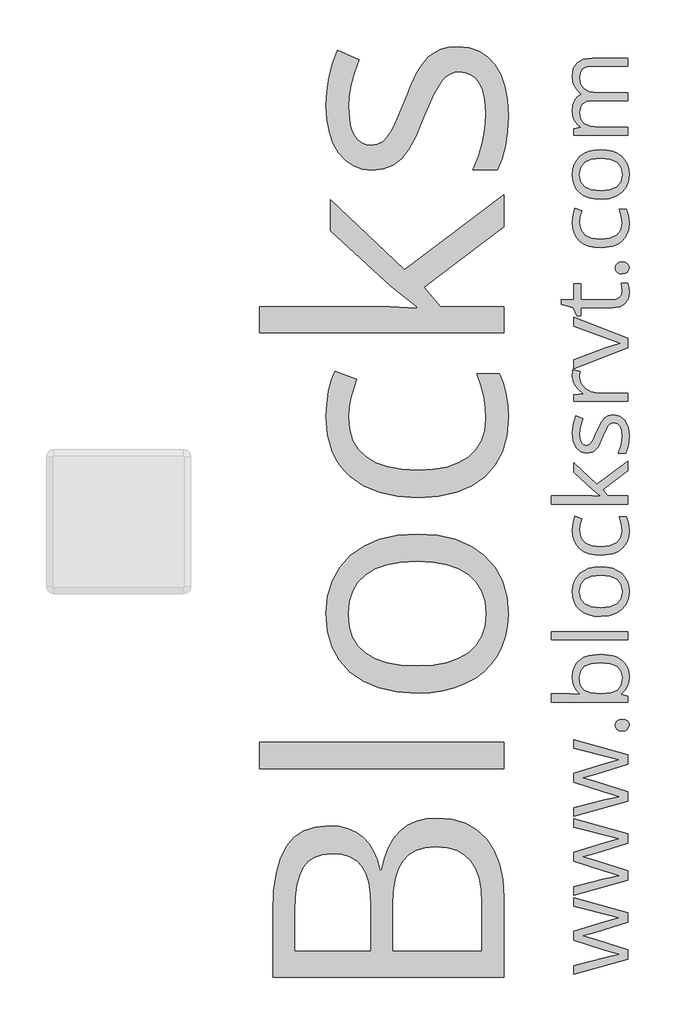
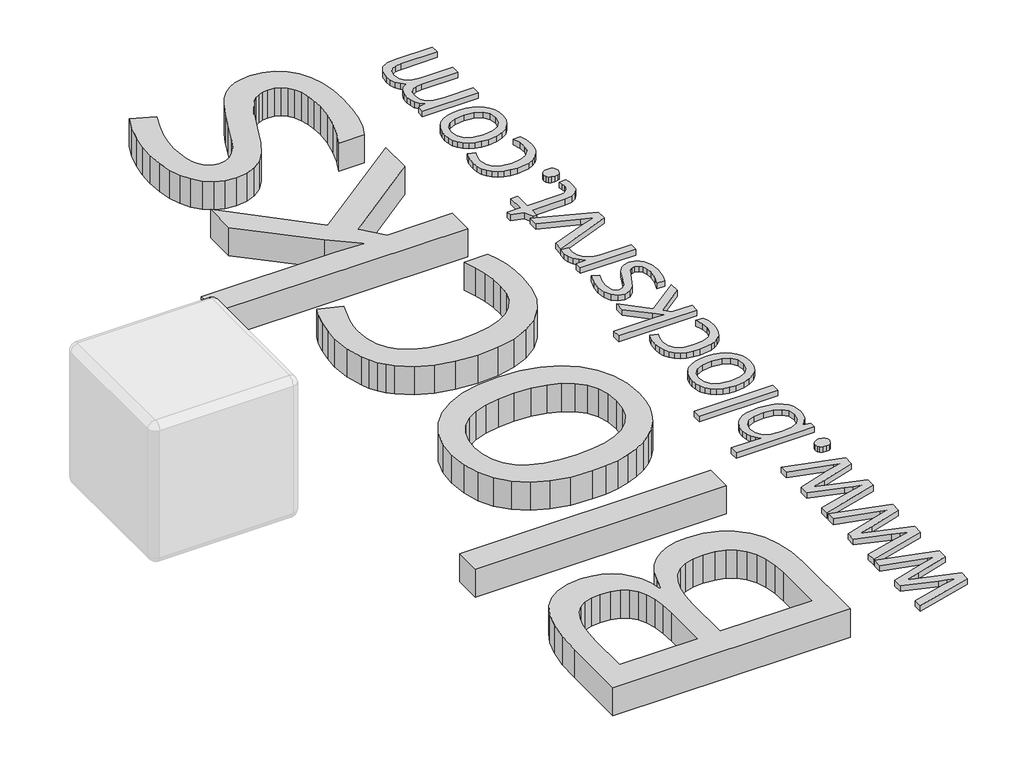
# One storey, part 9 of 9: 2 proxies.
"""IFC4 building model written with IfcOpenShell, lengths in millimetres."""

from ifc_helpers import new_model, si_unit, origin, origin_with_axes, place, context, project, spatial, polyline, outline, extrude, element, save

model = new_model("IFC4")

# Units and contexts
model_context = context("Model", 3, world=origin())
ifc_project = project(units=[si_unit("LENGTHUNIT", "METRE", prefix="MILLI")], contexts=[model_context])

# Site, building, storey
site = spatial("IfcSite", under=ifc_project)
building = spatial("IfcBuilding", under=site)
storey = spatial("IfcBuildingStorey", under=building, Name="PORTOBELLO - SHOWROOM", Elevation=0.0)

# Proxies
placement = place(None, origin())
element("IfcBuildingElementProxy", 1, Name="25mm OpenSans", ObjectType="25mm OpenSans", at=placement, inside=storey, context=model_context, shape_type="SweptSolid", body=[
    extrude(outline(polyline([(15136.7223742, 6145.6538983), (15026.9107309, 6111.1737919), (14981.1871115, 6098.9558411), (15027.2855146, 6085.5385823), (15136.7223742, 6050.0090814), (15136.7223742, 6017.1030667), (14949.6303184, 5965.7576908), (14949.6303184, 5995.5904786), (15056.9683889, 6023.3244772), (15106.6647162, 6034.2681632), (15081.4792471, 6041.6888818), (15056.9683889, 6049.0346436), (14949.6303184, 6083.51475), (14949.6303184, 6114.3969323), (15057.0433456, 6148.0525144), (15106.3648892, 6161.0949895), (15087.4008306, 6166.1920487), (14949.6303184, 6201.94642), (14949.6303184, 6231.4793807), (15136.7223742, 6179.459394), (15136.7223742, 6145.6538983)])), origin_with_axes(), (0.0, 0.0, 1.0), 20.0),
    extrude(outline(polyline([(15136.7223742, 6419.0961338), (15026.9107309, 6384.6160273), (14981.1871115, 6372.3980766), (15027.2855146, 6358.9808178), (15136.7223742, 6323.4513168), (15136.7223742, 6290.5453022), (14949.6303184, 6239.1999263), (14949.6303184, 6269.032714), (15056.9683889, 6296.7667127), (15106.6647162, 6307.7103986), (15081.4792471, 6315.1311172), (15056.9683889, 6322.476879), (14949.6303184, 6356.9569854), (14949.6303184, 6387.8391677), (15057.0433456, 6421.4947499), (15106.3648892, 6434.5372249), (15087.4008306, 6439.6342841), (14949.6303184, 6475.3886554), (14949.6303184, 6504.9216161), (15136.7223742, 6452.9016294), (15136.7223742, 6419.0961338)])), origin_with_axes(), (0.0, 0.0, 1.0), 20.0),
    extrude(outline(polyline([(15136.7223742, 6692.5383692), (15026.9107309, 6658.0582628), (14981.1871115, 6645.840312), (15027.2855146, 6632.4230532), (15136.7223742, 6596.8935522), (15136.7223742, 6563.9875376), (14949.6303184, 6512.6421617), (14949.6303184, 6542.4749494), (15056.9683889, 6570.2089481), (15106.6647162, 6581.152634), (15081.4792471, 6588.5733526), (15056.9683889, 6595.9191144), (14949.6303184, 6630.3992208), (14949.6303184, 6661.2814031), (15057.0433456, 6694.9369853), (15106.3648892, 6707.9794603), (15087.4008306, 6713.0765196), (14949.6303184, 6748.8308908), (14949.6303184, 6778.3638515), (15136.7223742, 6726.3438649), (15136.7223742, 6692.5383692)])), origin_with_axes(), (0.0, 0.0, 1.0), 20.0),
    extrude(outline(polyline([(15117.6084022, 6807.5220285), (15107.1987831, 6808.8244021), (15099.6562598, 6812.7315228), (15095.0745282, 6819.0747381), (15093.5472844, 6827.6853951), (15095.0745282, 6836.5490311), (15099.6562598, 6843.201443), (15107.1987831, 6847.3615428), (15117.6084022, 6848.7482427), (15127.8118902, 6847.333434), (15135.3356743, 6843.0890079), (15139.9736234, 6836.4084872), (15141.5196064, 6827.6853951), (15135.9353283, 6813.2562201), (15128.5614577, 6808.9555764), (15117.6084022, 6807.5220285)])), origin_with_axes(), (0.0, 0.0, 1.0), 20.0),
    extrude(outline(polyline([(14944.8330862, 6995.8883491), (14946.4329444, 7013.4727349), (14951.232519, 7028.972386), (14959.23181, 7042.3873024), (14970.4308174, 7053.7174842), (14984.5531382, 7062.7193217), (15001.3223693, 7069.1492057), (15042.8015625, 7074.2931129), (15084.4212997, 7069.1023577), (15101.3099931, 7062.6139138), (15115.5845698, 7053.5300923), (15126.9311483, 7042.1460354), (15135.0358473, 7028.7568854), (15139.8986666, 7013.3626422), (15141.5196064, 6995.9633059), (15139.8049707, 6978.3203601), (15134.6610635, 6962.2702453), (15125.9567105, 6948.2627021), (15113.5607375, 6936.7474709), (15113.5607375, 6934.6486818), (15136.7223742, 6928.6521416), (15136.7223742, 6908.3388615), (14872.8746032, 6908.3388615), (14872.8746032, 6936.6725141), (14935.463492, 6936.6725141), (14973.2416956, 6935.3232926), (14960.812929, 6947.8785487), (14951.9352386, 6961.4831994), (14946.6086243, 6977.4864662), (14944.8330862, 6995.8883491)]), holes=[polyline([(14968.8192472, 6991.9156412), (14973.0543037, 6966.6458458), (14985.7594734, 6949.6025541), (15008.4901088, 6939.9050241), (15042.8015625, 6936.6725141), (15077.2535602, 6939.9987201), (15100.2559138, 6949.9773378), (15113.2140625, 6967.2829782), (15117.5334454, 6992.590252), (15112.6893652, 7015.6675623), (15098.1571247, 7031.9800257), (15074.5551171, 7041.6775557), (15042.5017355, 7044.9100657), (15010.054831, 7041.6775557), (14987.0712166, 7031.9800257), (14973.3822395, 7015.4989097), (14968.8192472, 6991.9156412)])]), origin_with_axes(), (0.0, 0.0, 1.0), 20.0),
    extrude(outline(polyline([(15136.7223742, 7151.5735254), (15136.7223742, 7123.2398727), (14872.8746032, 7123.2398727), (14872.8746032, 7151.5735254), (15136.7223742, 7151.5735254)])), origin_with_axes(), (0.0, 0.0, 1.0), 20.0),
    extrude(outline(polyline([(15043.0264328, 7376.5187415), (15064.9536255, 7375.0781664), (15084.3369734, 7370.7564411), (15101.1764764, 7363.5535656), (15115.4721347, 7353.4695399), (15126.8679036, 7340.851039), (15135.0077385, 7326.0447379), (15139.8916394, 7309.0506365), (15141.5196064, 7289.8687349), (15138.5307059, 7266.1730313), (15129.5640043, 7245.3069452), (15115.0130246, 7228.0762615), (15095.2712897, 7215.2867655), (15071.0415193, 7207.3600889), (15043.0264328, 7204.7178633), (15021.1086097, 7206.1467264), (15001.7533706, 7210.4333158), (14984.9607155, 7217.5776313), (14970.7306444, 7227.579673), (14959.4004627, 7240.1208748), (14951.3074757, 7254.8826704), (14946.4516836, 7271.8650598), (14944.8330862, 7291.0680429), (14946.489162, 7309.6643449), (14951.4573892, 7326.2508689), (14959.7377681, 7340.827615), (14971.3302984, 7353.3945832), (14985.7477614, 7363.5114024), (15002.5029381, 7370.7377019), (15021.5958286, 7375.0734816), (15043.0264328, 7376.5187415)]), holes=[polyline([(15042.8015625, 7234.1758673), (15074.9580096, 7237.7550523), (15098.4194734, 7248.4926072), (15112.7549524, 7266.1636617), (15117.5334454, 7290.5433457), (15112.7736916, 7314.9417688), (15098.4944301, 7332.6690409), (15075.0517056, 7343.4628134), (15042.8015625, 7347.0607375), (15010.8793553, 7343.4628134), (14987.6708706, 7332.6690409), (14973.532153, 7314.8480729), (14968.8192472, 7290.1685619), (14973.4665659, 7265.8357259), (14987.408522, 7248.3052153), (15010.5514195, 7237.7082043), (15042.8015625, 7234.1758673)])]), origin_with_axes(), (0.0, 0.0, 1.0), 20.0),
    extrude(outline(polyline([(15141.5196064, 7501.9213895), (15139.9338026, 7482.5778624), (15135.1763912, 7465.548625), (15127.2473721, 7450.8336774), (15116.1467455, 7438.4330196), (15102.1462294, 7428.5949458), (15085.5175422, 7421.5677501), (15044.3756543, 7415.9459937), (15021.9284492, 7417.3725144), (15002.1843719, 7421.6520765), (14985.1434226, 7428.78468), (14970.8056012, 7438.770325), (14959.4426259, 7451.3935107), (14951.3262149, 7466.4387365), (14946.4563684, 7483.9060024), (14944.8330862, 7503.7953083), (14947.6064861, 7531.0420881), (14954.1277236, 7552.3672844), (14977.5891873, 7543.5973442), (14971.3302984, 7522.871802), (14968.8192472, 7503.0457408), (14973.5087291, 7477.8274782), (14987.5771747, 7459.8144334), (15011.024584, 7449.0066066), (15043.8509571, 7445.4039976), (15075.3140542, 7448.9175954), (15098.4944301, 7459.4583889), (15112.7736916, 7476.8952036), (15117.5334454, 7501.0968652), (15115.003655, 7525.064287), (15107.4142837, 7549.5938845), (15132.0750555, 7549.5938845), (15139.1584687, 7528.1937315), (15141.5196064, 7501.9213895)])), origin_with_axes(), (0.0, 0.0, 1.0), 20.0),
    extrude(outline(polyline([(15042.8765193, 7621.1775837), (15014.9926071, 7644.0393934), (14949.6303184, 7704.0047959), (14949.6303184, 7737.3605511), (15029.3843037, 7662.1039709), (15136.7223742, 7742.6075238), (15136.7223742, 7708.5022011), (15050.3721946, 7642.9150421), (15068.3618154, 7621.9271513), (15136.7223742, 7621.9271513), (15136.7223742, 7593.8933256), (14872.8746032, 7593.8933256), (14872.8746032, 7621.9271513), (15013.8682558, 7621.9271513), (15042.8765193, 7621.1775837)])), origin_with_axes(), (0.0, 0.0, 1.0), 20.0),
    extrude(outline(polyline([(15086.2764793, 7902.865062), (15109.7660519, 7897.9647643), (15127.1653882, 7883.2638711), (15137.9310519, 7859.718081), (15141.5196064, 7828.2830926), (15138.5588147, 7794.9835551), (15129.6764394, 7769.8917819), (15103.1417488, 7769.8917819), (15113.6731726, 7799.0499589), (15117.5334454, 7829.0326602), (15115.7532225, 7848.8493518), (15110.4125539, 7863.4752882), (15101.4177435, 7872.4982074), (15088.6750955, 7875.5058471), (15078.3872811, 7873.1166006), (15069.7110369, 7865.9488611), (15051.1217621, 7828.7328332), (15033.8817089, 7791.3294133), (15017.2038313, 7774.8014493), (14994.8292405, 7769.3670847), (14974.1036983, 7774.0518817), (14958.250345, 7788.106273), (14948.1874009, 7810.3309503), (14944.8330862, 7839.5266056), (14947.9437914, 7869.5655244), (14957.2759072, 7898.9673108), (14980.4375439, 7888.7731924), (14971.7238214, 7861.7138045), (14968.8192472, 7837.3528598), (14970.4214478, 7819.5318917), (14975.2280496, 7806.6955477), (14982.8642688, 7798.9375238), (14992.9553217, 7796.3515158), (15005.9603184, 7800.2117886), (15016.1544368, 7812.692088), (15030.208828, 7845.7480161), (15042.5392139, 7873.8286898), (15054.9445565, 7891.0593734), (15068.9989478, 7899.9136398), (15086.2764793, 7902.865062)])), origin_with_axes(), (0.0, 0.0, 1.0), 20.0),
    extrude(outline(polyline([(14944.8330862, 8035.3136448), (14946.707005, 8057.9505842), (14971.3677768, 8053.9778763), (14968.8192472, 8033.2898125), (14973.5134139, 8011.9552466), (14987.5959139, 7993.9749954), (15008.6868703, 7981.7476751), (15034.4064062, 7977.6719016), (15136.7223742, 7977.6719016), (15136.7223742, 7949.3382489), (14949.6303184, 7949.3382489), (14949.6303184, 7972.7247559), (14983.2109438, 7975.9478963), (14966.8891108, 7988.9341538), (14954.8023344, 8002.7074572), (14947.3253982, 8018.2797226), (14944.8330862, 8035.3136448)])), origin_with_axes(), (0.0, 0.0, 1.0), 20.0),
    extrude(outline(polyline([(15136.7223742, 8134.9311697), (14949.6303184, 8062.9726867), (14949.6303184, 8093.7799122), (15060.566313, 8134.6313427), (15111.0871646, 8150.8220014), (15073.6087881, 8164.2392602), (14949.6303184, 8209.6630526), (14949.6303184, 8240.4702781), (15136.7223742, 8168.5117951), (15136.7223742, 8134.9311697)])), origin_with_axes(), (0.0, 0.0, 1.0), 20.0),
    extrude(outline(polyline([(15117.5334454, 8331.8425602), (15116.4090941, 8346.5340838), (15114.0854348, 8357.7775968), (15136.2726337, 8357.7775968), (15140.0204713, 8344.0605109), (15141.5196064, 8327.7948955), (15137.9591606, 8303.7899953), (15127.2778233, 8286.643638), (15109.4755944, 8276.3558237), (15084.552474, 8272.9265522), (14973.6164794, 8272.9265522), (14973.6164794, 8245.7922076), (14959.5995666, 8245.7922076), (14947.4565726, 8272.7766387), (14906.4552286, 8284.844676), (14906.4552286, 8301.3351616), (14949.6303184, 8301.3351616), (14949.6303184, 8356.4283752), (14973.6164794, 8356.4283752), (14973.6164794, 8301.3351616), (15082.8284687, 8301.3351616), (15097.6605362, 8303.3683636), (15108.5761134, 8309.4679694), (15115.2941124, 8319.1280209), (15117.5334454, 8331.8425602)])), origin_with_axes(), (0.0, 0.0, 1.0), 20.0),
    extrude(outline(polyline([(15117.6084022, 8390.6086546), (15107.1987831, 8391.9110282), (15099.6562598, 8395.818149), (15095.0745282, 8402.1613642), (15093.5472844, 8410.7720212), (15095.0745282, 8419.6356573), (15099.6562598, 8426.2880691), (15107.1987831, 8430.4481689), (15117.6084022, 8431.8348688), (15127.8118902, 8430.4200601), (15135.3356743, 8426.175634), (15139.9736234, 8419.4951134), (15141.5196064, 8410.7720212), (15135.9353283, 8396.3428462), (15128.5614577, 8392.0422025), (15117.6084022, 8390.6086546)])), origin_with_axes(), (0.0, 0.0, 1.0), 20.0),
    extrude(outline(polyline([(15141.5196064, 8566.906938), (15139.9338026, 8547.5634109), (15135.1763912, 8530.5341735), (15127.2473721, 8515.8192259), (15116.1467455, 8503.4185681), (15102.1462294, 8493.5804942), (15085.5175422, 8486.5532986), (15044.3756543, 8480.9315422), (15021.9284492, 8482.3580629), (15002.1843719, 8486.637625), (14985.1434226, 8493.7702285), (14970.8056012, 8503.7558735), (14959.4426259, 8516.3790592), (14951.3262149, 8531.424285), (14946.4563684, 8548.8915509), (14944.8330862, 8568.7808568), (14947.6064861, 8596.0276366), (14954.1277236, 8617.3528328), (14977.5891873, 8608.5828927), (14971.3302984, 8587.8573505), (14968.8192472, 8568.0312893), (14973.5087291, 8542.8130267), (14987.5771747, 8524.7999819), (15011.024584, 8513.9921551), (15043.8509571, 8510.3895461), (15075.3140542, 8513.9031439), (15098.4944301, 8524.4439373), (15112.7736916, 8541.880752), (15117.5334454, 8566.0824137), (15115.003655, 8590.0498355), (15107.4142837, 8614.579433), (15132.0750555, 8614.579433), (15139.1584687, 8593.17928), (15141.5196064, 8566.906938)])), origin_with_axes(), (0.0, 0.0, 1.0), 20.0),
    extrude(outline(polyline([(15043.0264328, 8820.4856338), (15064.9536255, 8819.0450587), (15084.3369734, 8814.7233334), (15101.1764764, 8807.5204579), (15115.4721347, 8797.4364322), (15126.8679036, 8784.8179313), (15135.0077385, 8770.0116302), (15139.8916394, 8753.0175288), (15141.5196064, 8733.8356272), (15138.5307059, 8710.1399236), (15129.5640043, 8689.2738375), (15115.0130246, 8672.0431539), (15095.2712897, 8659.2536578), (15071.0415193, 8651.3269812), (15043.0264328, 8648.6847557), (15021.1086097, 8650.1136188), (15001.7533706, 8654.4002081), (14984.9607155, 8661.5445236), (14970.7306444, 8671.5465654), (14959.4004627, 8684.0877671), (14951.3074757, 8698.8495627), (14946.4516836, 8715.8319521), (14944.8330862, 8735.0349353), (14946.489162, 8753.6312372), (14951.4573892, 8770.2177613), (14959.7377681, 8784.7945074), (14971.3302984, 8797.3614755), (14985.7477614, 8807.4782948), (15002.5029381, 8814.7045942), (15021.5958286, 8819.0403739), (15043.0264328, 8820.4856338)]), holes=[polyline([(15042.8015625, 8678.1427596), (15074.9580096, 8681.7219446), (15098.4194734, 8692.4594995), (15112.7549524, 8710.130554), (15117.5334454, 8734.510238), (15112.7736916, 8758.9086611), (15098.4944301, 8776.6359333), (15075.0517056, 8787.4297057), (15042.8015625, 8791.0276299), (15010.8793553, 8787.4297057), (14987.6708706, 8776.6359333), (14973.532153, 8758.8149652), (14968.8192472, 8734.1354542), (14973.4665659, 8709.8026182), (14987.408522, 8692.2721076), (15010.5514195, 8681.6750966), (15042.8015625, 8678.1427596)])]), origin_with_axes(), (0.0, 0.0, 1.0), 20.0),
    extrude(outline(polyline([(15136.7223742, 9109.5188739), (15013.9432126, 9109.5188739), (14994.2014777, 9107.1202578), (14980.1002385, 9099.9244095), (14971.639495, 9087.6689804), (14968.8192472, 9070.0916218), (14972.6514112, 9047.023681), (14984.1479032, 9030.8892399), (15003.6085502, 9021.3884714), (15031.3331793, 9018.2215486), (15136.7223742, 9018.2215486), (15136.7223742, 8989.8129392), (15013.9432126, 8989.8129392), (14994.2014777, 8987.4143231), (14980.1002385, 8980.2184748), (14971.639495, 8967.9255672), (14968.8192472, 8950.2357735), (14972.8481727, 8927.0553976), (14984.9349491, 8911.0333916), (15006.1851886, 8901.7012759), (15037.7045033, 8898.5905706), (15136.7223742, 8898.5905706), (15136.7223742, 8870.2569179), (14949.6303184, 8870.2569179), (14949.6303184, 8893.3435979), (14973.6164794, 8897.9159598), (14961.5390725, 8909.0001897), (14952.4411966, 8922.014556), (14946.7351138, 8937.5399734), (14944.8330862, 8954.8081354), (14946.800701, 8974.9059149), (14952.7035453, 8991.1996391), (14962.5416191, 9003.6893081), (14976.3149225, 9012.3749219), (14963.2911867, 9024.0025882), (14953.3031993, 9038.0476098), (14946.9506145, 9055.0909015), (14944.8330862, 9074.3641567), (14948.9369684, 9102.2199601), (14961.2486151, 9122.0741301), (14982.5925506, 9133.964145), (15013.7932991, 9137.9274833), (15136.7223742, 9137.9274833), (15136.7223742, 9109.5188739)])), origin_with_axes(), (0.0, 0.0, 1.0), 20.0),
])
element("IfcBuildingElementProxy", 2, Name="80mm OpenSans", ObjectType="80mm OpenSans", at=placement, inside=storey, context=model_context, shape_type="SweptSolid", body=[
    extrude(outline(polyline([(13907.3389672, 5954.7997443), (13907.3389672, 6179.7828649), (13910.2759464, 6253.6129628), (13919.0868839, 6316.4613124), (13933.7717798, 6368.3279139), (13954.330634, 6409.2127672), (13981.2291568, 6440.182499), (14014.9330584, 6462.303736), (14055.4423389, 6475.5764782), (14102.7569982, 6480.0007256), (14136.4158312, 6477.5294566), (14166.9649214, 6470.1156499), (14194.404269, 6457.7593053), (14218.733874, 6440.4604228), (14239.5180718, 6418.4293233), (14256.3211982, 6391.8763275), (14269.1432531, 6360.8014353), (14277.9842364, 6325.2046469), (14283.2723012, 6325.2046469), (14293.1874227, 6367.7382647), (14307.1887761, 6404.6007334), (14325.2763614, 6435.7920531), (14347.4501785, 6461.3122238), (14373.7102276, 6481.1612455), (14404.0565086, 6495.3391181), (14438.4890214, 6503.8458416), (14477.0077661, 6506.6814161), (14528.2434054, 6502.1670313), (14573.5449946, 6488.6238767), (14612.9125338, 6466.0519524), (14646.346023, 6434.4512583), (14673.0041793, 6394.753215), (14692.0457194, 6347.889243), (14703.4706435, 6293.8593423), (14707.2789515, 6232.6635129), (14707.2789515, 5954.7997443), (13907.3389672, 5954.7997443)]), holes=[polyline([(14245.7751144, 6047.8216114), (14245.7751144, 6199.7332911), (14243.8446703, 6245.2151553), (14238.053338, 6283.831549), (14228.4011174, 6315.5824721), (14214.8880087, 6340.4679248), (14196.8079348, 6359.2390526), (14173.4548191, 6372.6470009), (14144.8286615, 6380.69177), (14110.929462, 6383.3733597), (14079.7268751, 6380.3838003), (14053.1813907, 6371.4151222), (14031.2930089, 6356.4673254), (14014.0617295, 6335.5404099), (14001.0218425, 6308.1085737), (13991.7076374, 6273.6460151), (13986.1191144, 6232.1527339), (13984.2562734, 6183.6287302), (13984.2562734, 6047.8216114), (14245.7751144, 6047.8216114)]), polyline([(14322.6924206, 6047.8216114), (14630.3616454, 6047.8216114), (14630.3616454, 6213.4341863), (14627.9504681, 6258.5404777), (14620.7169363, 6297.7127191), (14608.6610499, 6330.9509105), (14591.782809, 6358.2550519), (14569.7817553, 6379.5500287), (14542.3574306, 6394.7607265), (14509.5098349, 6403.8871451), (14471.2389682, 6406.9292847), (14435.5445308, 6403.819542), (14404.8977916, 6394.4903141), (14379.2987506, 6378.9416008), (14358.7474079, 6357.1734022), (14342.973351, 6329.0655351), (14331.7061674, 6294.497816), (14324.9458573, 6253.4702451), (14322.6924206, 6205.9828223), (14322.6924206, 6047.8216114)])]), origin_with_axes(), (0.0, 0.0, 1.0), 100.0),
    extrude(outline(polyline([(14707.2789515, 6768.4406238), (14707.2789515, 6677.5820558), (13861.1885835, 6677.5820558), (13861.1885835, 6768.4406238), (14707.2789515, 6768.4406238)])), origin_with_axes(), (0.0, 0.0, 1.0), 100.0),
    extrude(outline(polyline([(14406.8207243, 7489.7807358), (14477.1354609, 7485.1611906), (14539.2927567, 7471.3025548), (14593.2926116, 7448.2048286), (14639.1350256, 7415.8680119), (14675.6782575, 7375.4038002), (14701.780566, 7327.9238888), (14717.4419511, 7273.4282778), (14722.6624128, 7211.9169672), (14720.2662584, 7172.7897946), (14713.0777953, 7135.9310815), (14701.0970235, 7101.3408281), (14684.323943, 7069.0190343), (14663.0740349, 7039.6116853), (14637.6627803, 7013.7647663), (14608.0901793, 6991.4782773), (14574.3562318, 6972.7522183), (14537.024297, 6957.9246048), (14496.6577342, 6947.3334523), (14453.2565433, 6940.9787608), (14406.8207243, 6938.8605303), (14336.5360334, 6943.4425182), (14274.4688751, 6957.1884821), (14220.6192493, 6980.098422), (14174.9871561, 7012.1723377), (14138.6542449, 7052.3886715), (14112.7021656, 7099.7258652), (14097.1309179, 7154.1839189), (14091.9405021, 7215.7628325), (14097.2511012, 7275.3962792), (14113.1828987, 7328.5848969), (14139.7358946, 7375.3286856), (14176.9100887, 7415.6276453), (14223.1430985, 7448.0696224), (14276.872541, 7471.2424632), (14338.0984162, 7485.1461677), (14406.8207243, 7489.7807358)]), holes=[polyline([(14406.0996245, 7033.3245969), (14461.1435717, 7036.193973), (14509.2168881, 7044.8021012), (14550.3195736, 7059.1489816), (14584.4516282, 7079.2346141), (14611.267525, 7104.8787238), (14630.421737, 7135.9010357), (14641.9142642, 7172.30155), (14645.7451066, 7214.0802665), (14641.9292871, 7255.8740059), (14630.4818286, 7292.3195889), (14611.4027312, 7323.4170154), (14584.6919948, 7349.1662855), (14550.6350547, 7369.3570783), (14509.5173463, 7383.7790732), (14461.3388696, 7392.4322702), (14406.0996245, 7395.3166692), (14351.4237386, 7392.4322702), (14303.7335065, 7383.7790732), (14263.0289281, 7369.3570783), (14229.3100036, 7349.1662855), (14202.8621681, 7323.3419008), (14183.9708571, 7292.0191306), (14172.6360705, 7255.1979749), (14168.8578082, 7212.8784336), (14172.5834903, 7171.1372743), (14183.7605363, 7134.8494319), (14202.3889464, 7104.0149064), (14228.4687205, 7078.6336976), (14261.9247441, 7058.8109661), (14302.6819027, 7044.6518721), (14350.7401961, 7036.1564157), (14406.0996245, 7033.3245969)])]), origin_with_axes(), (0.0, 0.0, 1.0), 100.0),
    extrude(outline(polyline([(14722.6624128, 7891.9140272), (14717.5771573, 7829.8844262), (14702.3213908, 7775.2761434), (14676.8951133, 7728.0891788), (14641.2983248, 7688.3235324), (14596.4023542, 7656.7754186), (14543.0785303, 7634.2410515), (14481.3268532, 7620.7204313), (14411.1473227, 7616.2135579), (14339.1650429, 7620.7880344), (14275.850983, 7634.5114639), (14221.2051429, 7657.3838465), (14175.2275227, 7689.405182), (14155.7071272, 7708.6739437), (14138.7894511, 7729.8844167), (14124.4744945, 7753.036601), (14112.7622572, 7778.1304966), (14097.1459408, 7834.1434216), (14091.9405021, 7897.9231918), (14094.1638929, 7941.6398638), (14100.8340656, 7985.2964443), (14110.5088205, 8024.2057847), (14121.7459582, 8053.6807368), (14196.9806983, 8025.5578467), (14176.9100887, 7959.0964868), (14170.8708784, 7925.2348446), (14168.8578082, 7895.519526), (14172.6172918, 7852.1972053), (14183.8957425, 7814.6511941), (14202.6931604, 7782.8814923), (14229.0095453, 7756.8880999), (14262.8448975, 7736.6710169), (14304.1992167, 7722.2302434), (14353.0725031, 7713.5657792), (14409.4647567, 7710.6776245), (14463.2317564, 7713.4944204), (14510.3586294, 7721.9448081), (14550.8453755, 7736.0287875), (14584.6919948, 7755.7463586), (14611.4027312, 7780.9923612), (14630.4818286, 7811.6616347), (14641.9292871, 7847.7541793), (14645.7451066, 7889.2699948), (14643.7170136, 7927.4732584), (14637.6327345, 7966.1272094), (14627.4922693, 8005.2318476), (14613.295618, 8044.7871733), (14692.3762235, 8044.7871733), (14705.6264313, 8012.4278222), (14715.0908655, 7976.1625142), (14720.7695259, 7935.9912492), (14722.6624128, 7891.9140272)])), origin_with_axes(), (0.0, 0.0, 1.0), 100.0),
    extrude(outline(polyline([(14406.3399911, 8276.5005582), (14316.9236226, 8347.6490664), (14107.3239633, 8539.9423318), (14107.3239633, 8646.9054608), (14363.0740064, 8405.5774126), (14707.2789515, 8663.7311215), (14707.2789515, 8554.3643268), (14430.3766493, 8344.0435677), (14488.0646289, 8276.7409247), (14707.2789515, 8276.7409247), (14707.2789515, 8186.8438231), (13861.1885835, 8186.8438231), (13861.1885835, 8276.7409247), (14313.3181239, 8276.7409247), (14406.3399911, 8272.1739597), (14406.3399911, 8276.5005582)])), origin_with_axes(), (0.0, 0.0, 1.0), 100.0),
    extrude(outline(polyline([(14545.512242, 9177.6348734), (14585.6159039, 9173.7063821), (14620.8371196, 9161.9209082), (14651.1758891, 9142.2784515), (14676.6322124, 9114.7790123), (14696.770425, 9080.1887589), (14711.1548627, 9039.2738598), (14719.7855253, 8992.034315), (14722.6624128, 8938.4701245), (14720.2887928, 8881.7886799), (14713.1679328, 8831.6872705), (14701.2998328, 8788.1658963), (14684.6844929, 8751.2245573), (14599.5947229, 8751.2245573), (14618.733912, 8796.353383), (14633.3662276, 8844.7271576), (14642.6503869, 8893.7619403), (14645.7451066, 8940.8737903), (14644.31793, 8974.7279211), (14640.0364003, 9004.4207054), (14632.9005174, 9029.9521433), (14622.9102813, 9051.3222347), (14609.9905775, 9068.2004756), (14594.0662915, 9080.256362), (14575.1374232, 9087.4898938), (14553.2039726, 9089.9010711), (14536.0628307, 9087.9856499), (14520.2136592, 9082.2393863), (14505.6564581, 9072.6622803), (14492.3912274, 9059.2543319), (14464.8692538, 9014.0954603), (14432.7803151, 8939.912324), (14403.0950422, 8867.7422578), (14377.4960013, 8819.9693997), (14352.3476476, 8788.9320648), (14324.0144368, 8766.9685684), (14291.1142609, 8753.8986355), (14252.2650121, 8749.5419912), (14217.0813537, 8753.297719), (14185.8036523, 8764.5649026), (14158.4319078, 8783.3435418), (14134.9661202, 8809.6336367), (14116.1424123, 8842.4737209), (14102.6969066, 8880.9023282), (14094.6296032, 8924.9194585), (14091.9405021, 8974.5251118), (14094.4343053, 9022.9439551), (14101.9157152, 9070.8520195), (14114.3847316, 9118.2493048), (14131.8413546, 9165.1358112), (14206.1146284, 9132.4459561), (14189.8147696, 9087.9781384), (14178.1720133, 9045.67362), (14171.1863595, 9005.5324008), (14168.8578082, 8967.5544809), (14173.9956439, 8910.4073261), (14180.4179385, 8887.8278903), (14189.409151, 8869.244549), (14200.6688231, 8854.7324166), (14213.8964965, 8844.3666077), (14229.0921714, 8838.1471224), (14246.2558476, 8836.0739607), (14268.9404438, 8839.1686804), (14287.9594495, 8848.4528396), (14304.7250186, 8864.6475381), (14320.6493047, 8888.4738755), (14339.6683105, 8928.7953696), (14365.7180388, 8994.4755381), (14385.4581443, 9043.8483363), (14405.2583415, 9084.5228688), (14425.1186303, 9116.4991356), (14445.0390108, 9139.7771368), (14466.2814074, 9156.3398966), (14490.1077449, 9168.1704393), (14516.518023, 9175.2687649), (14545.512242, 9177.6348734)])), origin_with_axes(), (0.0, 0.0, 1.0), 100.0),
])

save(model, "model.ifc")
